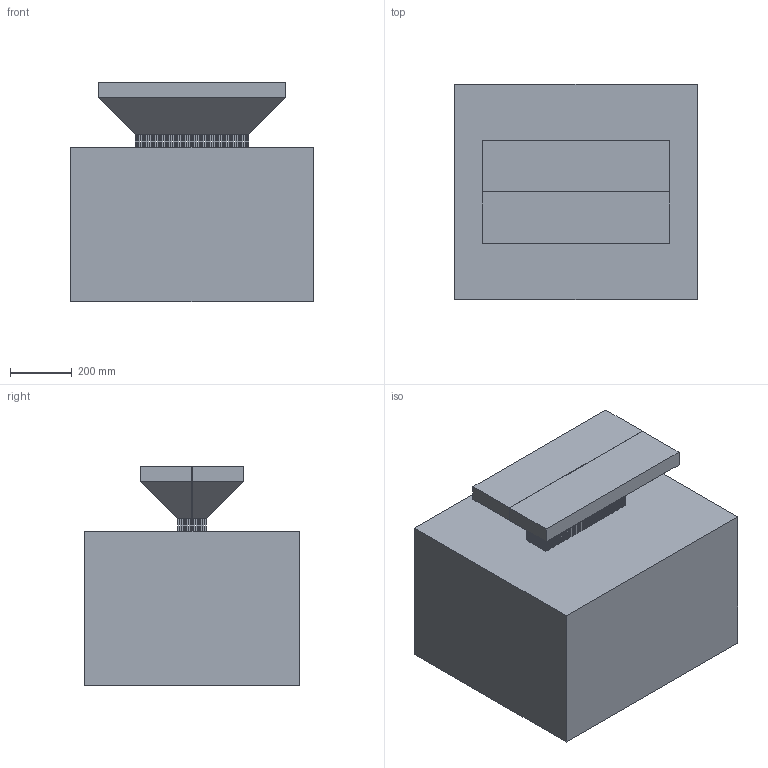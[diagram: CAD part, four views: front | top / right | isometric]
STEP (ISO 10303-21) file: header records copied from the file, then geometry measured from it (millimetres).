
FILE_DESCRIPTION(/* description */ (''),/* implementation_level */ '2;1');
FILE_NAME(/* name */ 'TopFanFunnelTest.step',/* time_stamp */ '2024-09-30T15:25:44-07:00',/* author */ (''),/* organization */ (''),/* preprocessor_version */ 'ST-DEVELOPER v20',/* originating_system */ 'Autodesk Translation Framework v13.20.0.188',/* authorisation */ '');
FILE_SCHEMA (('AUTOMOTIVE_DESIGN { 1 0 10303 214 3 1 1 }'));
Products named in the file (2): Domain; 5Even v1
Assembly tree (1 placements, depth 2):
  Domain
    5Even v1
Bounding box: 784 x 694.7 x 710 mm (x, y, z)
Volume: 297322238.1 mm3; surface area: 4206882.1 mm2
Topology: 17 solids, 17 shells, 4216 faces, 12530 edges, 8352 vertices
Faces by surface type: plane 4216
Entity records: 142349 total; most frequent: CARTESIAN_POINT 25101, ORIENTED_EDGE 25060, DIRECTION 20968, LINE 12530, VECTOR 12530, EDGE_CURVE 12530, VERTEX_POINT 8352, EDGE_LOOP 6264
